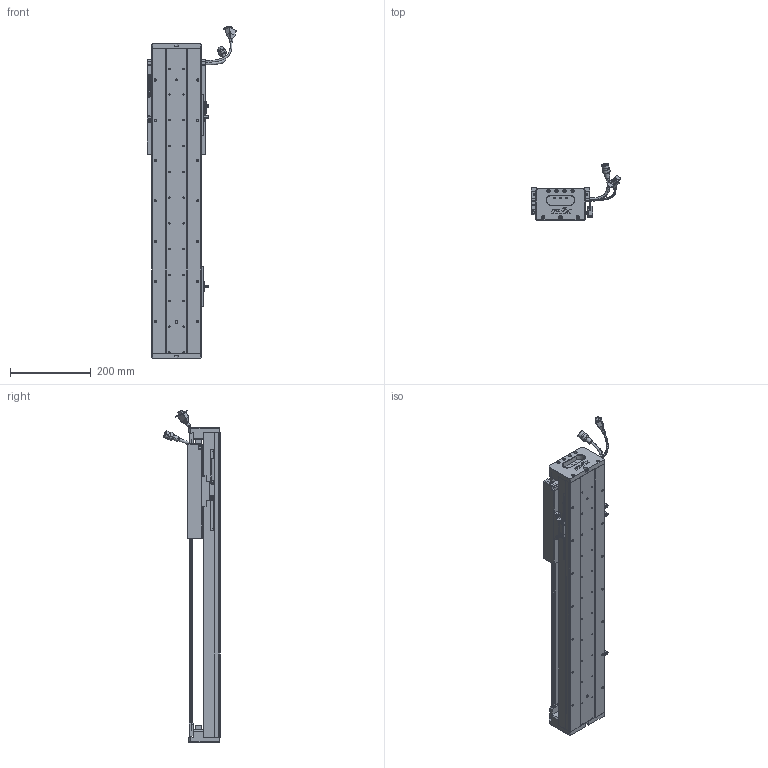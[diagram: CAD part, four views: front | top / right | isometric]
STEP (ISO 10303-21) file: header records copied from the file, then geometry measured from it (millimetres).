
FILE_DESCRIPTION (( 'STEP AP203' ), '1' );
FILE_NAME ('Z3-RY120D-1-L500-B-K.SLDASM_0450.step', '2021-05-17T05:45:59', ( '盈信电脑' ), ( '东莞市道滘镇水果街19号' ), 'SwSTEP 2.0', 'SolidWorks 2016', '' );
FILE_SCHEMA (( 'CONFIG_CONTROL_DESIGN' ));
Length unit declared in the file: millimetre
Products named in the file (37): SCREW-M1.6; HARNESS-Part-1; Z3-RY120-L500詩湍100mm遵_0450; SEAL-Part-1; 672嫖萇羲壽假蚾釱; Z3-RY120铝滑块（21款）; SCALE; SCREW-M1.6-2; SCALE-Part-1; Z3-RY120-500-倰第菁釱_0450; COVER-Part-1; SHIELDPLATE; LABEL; SEAL; HOLDER0; Z-RY120D詩湍狟揤裔; HARNESS; PBU_SHEET; Z-120詩湍傷裔啣; SCALE-Part-2; RY100FB-遵嫖萇覜茼え; LABEL-Part-1; 覜茼ん672; SCREW-M1.7; 120-Z-臏賑輸盄裔(21遴); HARNESS-Part-2; 080黍杅芛假蚾釱21遴; Z-RY120D詩湍奻揤裔; Z3-RY120D-1-L500-B-K.SLDASM_0450; SCREW-M1.7-1; 140雄赽晤鎢ん堤盄; 140蚥薯蝶輸; COVER; 榋妏寠巭燃_暯_M2_2; SCREW-M1.6-3; SCREW-M1.6-1; PSLH080_PSLF2
Assembly tree (43 placements, depth 4):
  Z3-RY120D-1-L500-B-K.SLDASM_0450
    Z3-RY120-500-倰第菁釱_0450
    覜茼ん672  x3
    672嫖萇羲壽假蚾釱  x2
    Z3-RY120铝滑块（21款）
    PSLH080_PSLF2
      SCALE
        SCALE-Part-1
        SCALE-Part-2
      HARNESS
        HARNESS-Part-1
        HARNESS-Part-2
      LABEL
        LABEL-Part-1
      COVER
        COVER-Part-1
      SEAL
        SEAL-Part-1
      榋妏寠巭燃_暯_M2_2
      SHIELDPLATE
      SCREW-M1.7
      SCREW-M1.7-1
      PBU_SHEET
      SCREW-M1.6
      SCREW-M1.6-1
      SCREW-M1.6-2
      SCREW-M1.6-3
      HOLDER0
    080黍杅芛假蚾釱21遴
    120-Z-臏賑輸盄裔(21遴)
    140雄赽晤鎢ん堤盄
    140蚥薯蝶輸  x2
    RY100FB-遵嫖萇覜茼え
    Z-120詩湍傷裔啣  x2
    Z-RY120D詩湍奻揤裔  x2
    Z-RY120D詩湍狟揤裔  x2
    Z3-RY120-L500詩湍100mm遵_0450
Bounding box: 222.88 x 140.94 x 824 mm (x, y, z)
Volume: 2563493.3 mm3; surface area: 831790 mm2
Topology: 38 solids, 38 shells, 2649 faces, 7055 edges, 4454 vertices
Faces by surface type: cylinder 1169, plane 1096, cone 262, torus 69, bspline 53
Entity records: 77138 total; most frequent: CARTESIAN_POINT 19627, DIRECTION 11163, ORIENTED_EDGE 11110, EDGE_CURVE 5555, AXIS2_PLACEMENT_3D 4076, VERTEX_POINT 3574, VECTOR 3011, LINE 3011
